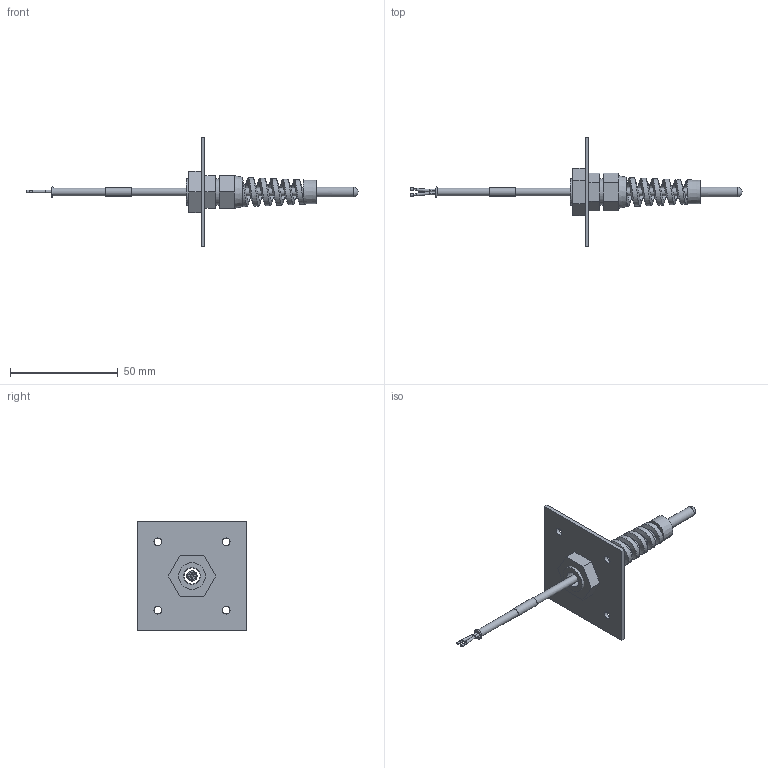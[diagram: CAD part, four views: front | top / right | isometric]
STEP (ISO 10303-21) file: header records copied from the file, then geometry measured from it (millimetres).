
FILE_DESCRIPTION(/* description */ (''),/* implementation_level */ '2;1');
FILE_NAME(/* name */ 'R:\Temp\J. Narvaez\IAN DRAWINGS\002 - Sensors\006 - MCS-SAIR\MCS-SAIR.stp',/* time_stamp */ '2022-11-14T09:50:22-05:00',/* author */ ('mjeter'),/* organization */ ('unknown'),/* preprocessor_version */ 'ST-DEVELOPER v19',/* originating_system */ 'Autodesk Inventor 2023',/* authorisation */ '');
FILE_SCHEMA (('AUTOMOTIVE_DESIGN { 1 0 10303 214 3 1 1 }'));
Length unit declared in the file: inch
Products named in the file (1): MCS-SAIR
Bounding box: 154.18 x 50.8 x 50.8 mm (x, y, z)
Volume: 11272.2 mm3; surface area: 12461.7 mm2
Topology: 4 solids, 4 shells, 96 faces, 226 edges, 143 vertices
Faces by surface type: plane 52, cylinder 31, sphere 5, bspline 5, cone 3
Full cylindrical faces by diameter (mm): 0.613 x3, 1.226 x4, 3.556 x6, 3.985 x1, 4.046 x1, 4.598 x1, 7.569 x3, 11.532 x1, 12.268 x2, 13.145 x1
Entity records: 5266 total; most frequent: CARTESIAN_POINT 2962, DIRECTION 461, ORIENTED_EDGE 450, EDGE_CURVE 225, AXIS2_PLACEMENT_3D 174, VERTEX_POINT 144, EDGE_LOOP 122, LINE 113
